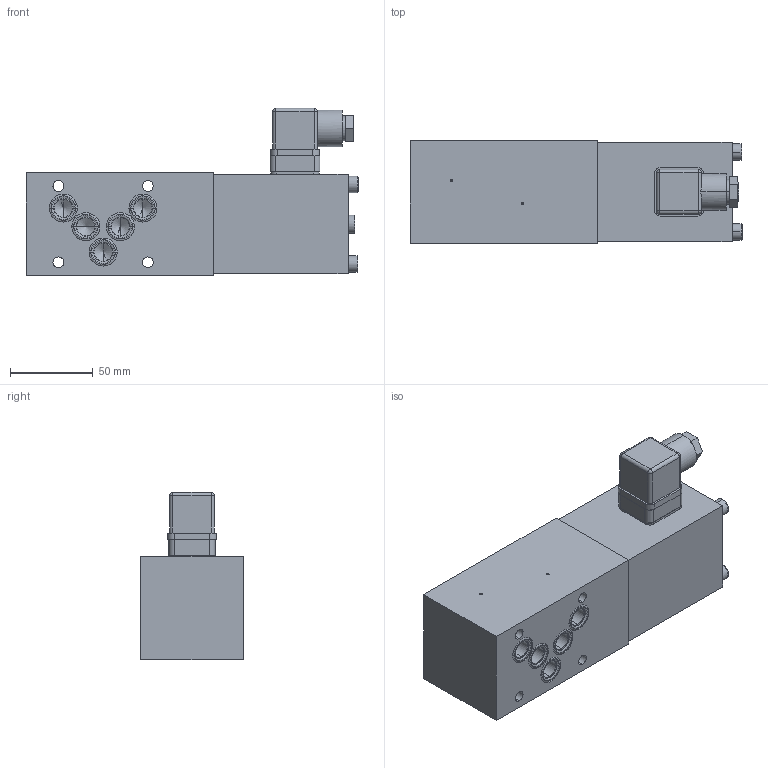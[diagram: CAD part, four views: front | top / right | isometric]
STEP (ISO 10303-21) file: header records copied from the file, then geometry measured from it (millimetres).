
FILE_DESCRIPTION (( 'STEP AP214' ), '1' );
FILE_NAME ('Z.22101B.STEP', '2017-03-08T09:01:29', ( '' ), ( '' ), 'SwSTEP 2.0', 'SolidWorks 2016', '' );
FILE_SCHEMA (( 'AUTOMOTIVE_DESIGN' ));
Length unit declared in the file: millimetre
Products named in the file (1): Z.22101B
Bounding box: 200.2 x 62 x 100.8 mm (x, y, z)
Volume: 728973.1 mm3; surface area: 97123.9 mm2
Topology: 12 solids, 23 shells, 640 faces, 1620 edges, 1018 vertices
Faces by surface type: plane 305, cylinder 211, cone 62, bspline 46, torus 16
Entity records: 26844 total; most frequent: CARTESIAN_POINT 4332, DIRECTION 3269, ORIENTED_EDGE 3140, EDGE_CURVE 1570, AXIS2_PLACEMENT_3D 1181, VERTEX_POINT 1018, VECTOR 907, LINE 907
